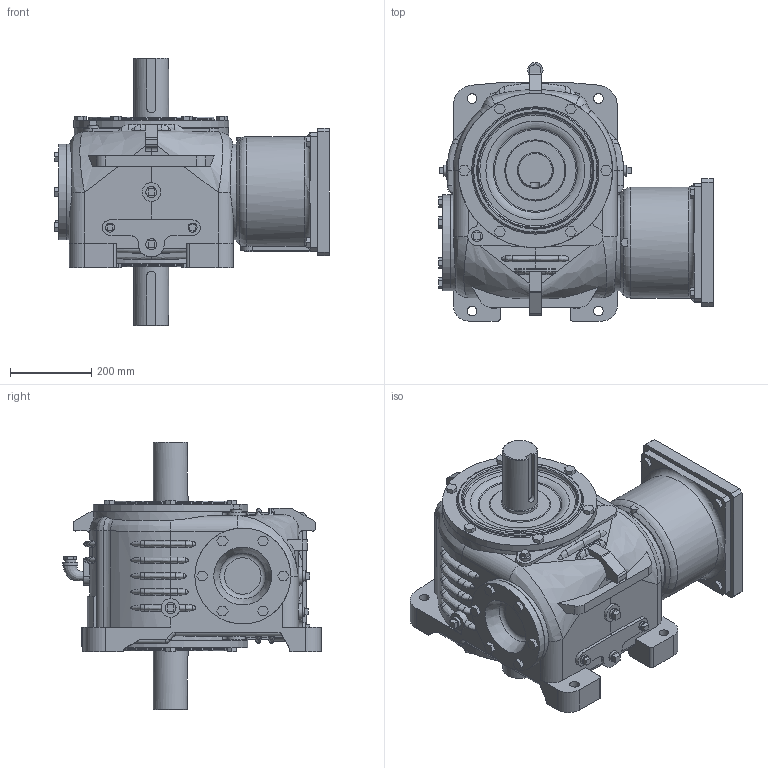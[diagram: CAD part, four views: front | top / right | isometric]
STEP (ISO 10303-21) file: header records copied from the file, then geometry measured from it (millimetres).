
FILE_DESCRIPTION(/* description */ ('Unknown'),/* implementation_level */ '2;1');
FILE_NAME(/* name */ 'V70CB-7CD01SBD-',/* time_stamp */ '2024-11-21T16:06:50-05:00',/* author */ ('Unknown'),/* organization */ ('Unknown'),/* preprocessor_version */ 'ST-DEVELOPER v19.4',/* originating_system */ 'Solid Edge',/* authorisation */ 'Unknown');
FILE_SCHEMA (('AUTOMOTIVE_DESIGN {1 0 10303 214 3 1 1}'));
Length unit declared in the file: millimetre
Products named in the file (7): V70CB-7CD01SBD-; 70-5-CP; 70-OUTS; 70-WCAP; 70-SM20-4-CP; MP5D-01-CP; KM600-S-48
Assembly tree (7 placements, depth 2):
  V70CB-7CD01SBD-
    70-5-CP
    70-OUTS  x2
    70-WCAP
    70-SM20-4-CP
    MP5D-01-CP
    KM600-S-48
Bounding box: 676.57 x 638.07 x 660.37 mm (x, y, z)
Volume: 61452318.5 mm3; surface area: 3177370.6 mm2
Topology: 7 solids, 8 shells, 741 faces, 1842 edges, 1207 vertices
Faces by surface type: plane 450, cylinder 134, bspline 127, torus 18, cone 12
Full cylindrical faces by diameter (mm): 0.254 x7, 13.835 x4, 15.875 x8, 22.225 x2, 23.812 x10, 26.924 x6, 38.1 x1, 44.45 x1, 45.72 x3, 47.625 x1, 85.712 x2, 88.9 x2, 94.5 x1, 106.68 x1, 122 x1, 154 x1, 171.45 x1, 171.475 x1, 171.958 x1, 171.983 x1, 177.8 x1, 177.825 x1, 178.308 x1, 236.22 x3, 250 x1, 254 x1, 269.875 x2, 308.665 x2, 381 x2
Entity records: 26492 total; most frequent: CARTESIAN_POINT 9903, ORIENTED_EDGE 3146, DIRECTION 2797, EDGE_CURVE 1573, VERTEX_POINT 1074, AXIS2_PLACEMENT_3D 940, LINE 917, VECTOR 917
